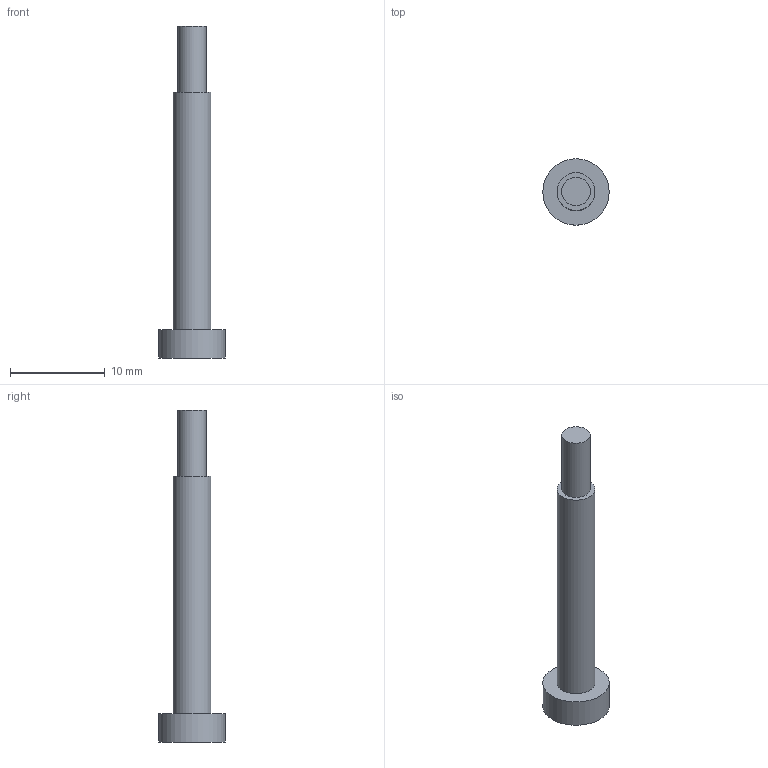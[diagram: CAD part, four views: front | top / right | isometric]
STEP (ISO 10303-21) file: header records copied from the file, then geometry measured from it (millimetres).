
FILE_DESCRIPTION(('Open CASCADE Model'),'2;1');
FILE_NAME('Open CASCADE Shape Model','2026-11-14T12:29:53',('Author'),( 'Open CASCADE'),'Open CASCADE STEP processor 8.0','Open CASCADE 8.0' ,'Unknown');
FILE_SCHEMA(('AUTOMOTIVE_DESIGN { 1 0 10303 214 1 1 1 1 }'));
Length unit declared in the file: millimetre
Products named in the file (1): Open CASCADE STEP translator 8.0 10
Bounding box: 7 x 7 x 35 mm (x, y, z)
Volume: 473.4 mm3; surface area: 534.4 mm2
Topology: 1 solids, 1 shells, 14 faces, 27 edges, 18 vertices
Faces by surface type: plane 11, cylinder 3
Full cylindrical faces by diameter (mm): 3 x1, 4 x1, 7 x1
Entity records: 706 total; most frequent: CARTESIAN_POINT 126, DIRECTION 105, LINE 57, VECTOR 57, ORIENTED_EDGE 54, PCURVE 54, DEFINITIONAL_REPRESENTATION 54, EDGE_CURVE 27
